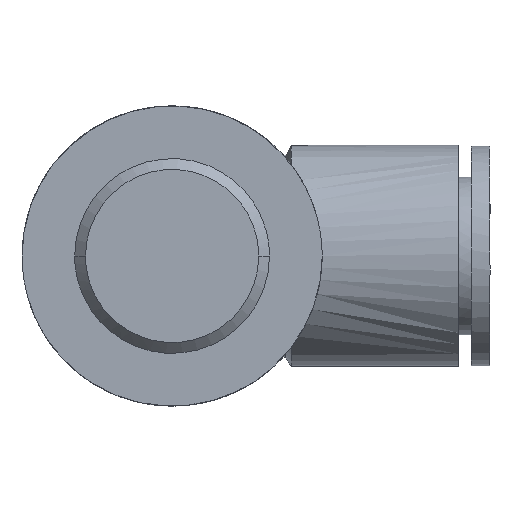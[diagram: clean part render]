
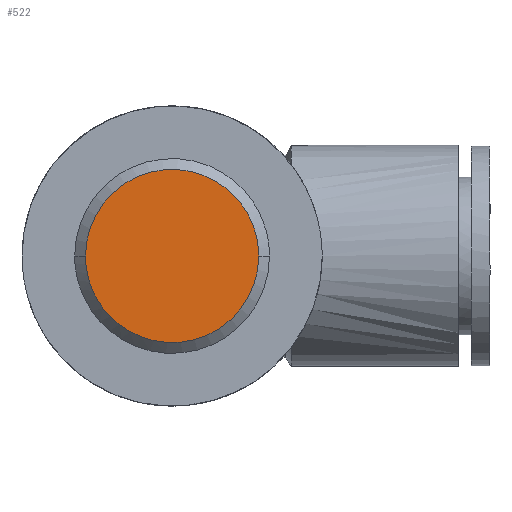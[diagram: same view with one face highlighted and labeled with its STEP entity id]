
A CAD part, front view. The second image highlights one B-rep face of the part: STEP entity #522.
In plain terms, the highlighted planar face has unit normal (0, -1, 0).
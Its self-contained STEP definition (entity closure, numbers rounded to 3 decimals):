
#96 = CARTESIAN_POINT ( 'NONE',  ( 9.316, -9., 0. ) ) ;
#206 =( BOUNDED_CURVE ( )  B_SPLINE_CURVE ( 3, ( #959, #2118, #778, #1616 ),
 .UNSPECIFIED., .F., .T. ) 
 B_SPLINE_CURVE_WITH_KNOTS ( ( 4, 4 ),
 ( 0.5, 1. ),
 .UNSPECIFIED. ) 
 CURVE ( )  GEOMETRIC_REPRESENTATION_ITEM ( )  RATIONAL_B_SPLINE_CURVE ( ( 1., 0.333, 0.333, 1. ) ) 
 REPRESENTATION_ITEM ( '' )  );
#373 = ORIENTED_EDGE ( 'NONE', *, *, #1106, .F. ) ;
#427 = ORIENTED_EDGE ( 'NONE', *, *, #564, .F. ) ;
#522 = ADVANCED_FACE ( 'NONE', ( #738 ), #750, .T. ) ;
#564 = EDGE_CURVE ( 'NONE', #2096, #1119, #206, .T. ) ;
#698 = AXIS2_PLACEMENT_3D ( 'NONE', #1743, #1732, #1402 ) ;
#738 = FACE_OUTER_BOUND ( 'NONE', #937, .T. ) ;
#750 = PLANE ( 'NONE',  #698 ) ;
#778 = CARTESIAN_POINT ( 'NONE',  ( -9.316, -9., -18.631 ) ) ;
#937 = EDGE_LOOP ( 'NONE', ( #373, #427 ) ) ;
#959 = CARTESIAN_POINT ( 'NONE',  ( 9.316, -9., 0. ) ) ;
#1058 = CARTESIAN_POINT ( 'NONE',  ( -9.316, -9., 0. ) ) ;
#1066 = CARTESIAN_POINT ( 'NONE',  ( 9.316, -9., 0. ) ) ;
#1086 = CARTESIAN_POINT ( 'NONE',  ( 9.316, -9., 18.631 ) ) ;
#1106 = EDGE_CURVE ( 'NONE', #1119, #2096, #1223, .T. ) ;
#1119 = VERTEX_POINT ( 'NONE', #1884 ) ;
#1223 =( BOUNDED_CURVE ( )  B_SPLINE_CURVE ( 3, ( #1058, #2079, #1086, #1066 ),
 .UNSPECIFIED., .F., .T. ) 
 B_SPLINE_CURVE_WITH_KNOTS ( ( 4, 4 ),
 ( 0., 0.5 ),
 .UNSPECIFIED. ) 
 CURVE ( )  GEOMETRIC_REPRESENTATION_ITEM ( )  RATIONAL_B_SPLINE_CURVE ( ( 1., 0.333, 0.333, 1. ) ) 
 REPRESENTATION_ITEM ( '' )  );
#1402 = DIRECTION ( 'NONE',  ( 1., 0., 0. ) ) ;
#1616 = CARTESIAN_POINT ( 'NONE',  ( -9.316, -9., 0. ) ) ;
#1732 = DIRECTION ( 'NONE',  ( 0., -1., 0. ) ) ;
#1743 = CARTESIAN_POINT ( 'NONE',  ( -9.427, -9., -9.427 ) ) ;
#1884 = CARTESIAN_POINT ( 'NONE',  ( -9.316, -9., 0. ) ) ;
#2079 = CARTESIAN_POINT ( 'NONE',  ( -9.316, -9., 18.631 ) ) ;
#2096 = VERTEX_POINT ( 'NONE', #96 ) ;
#2118 = CARTESIAN_POINT ( 'NONE',  ( 9.316, -9., -18.631 ) ) ;
